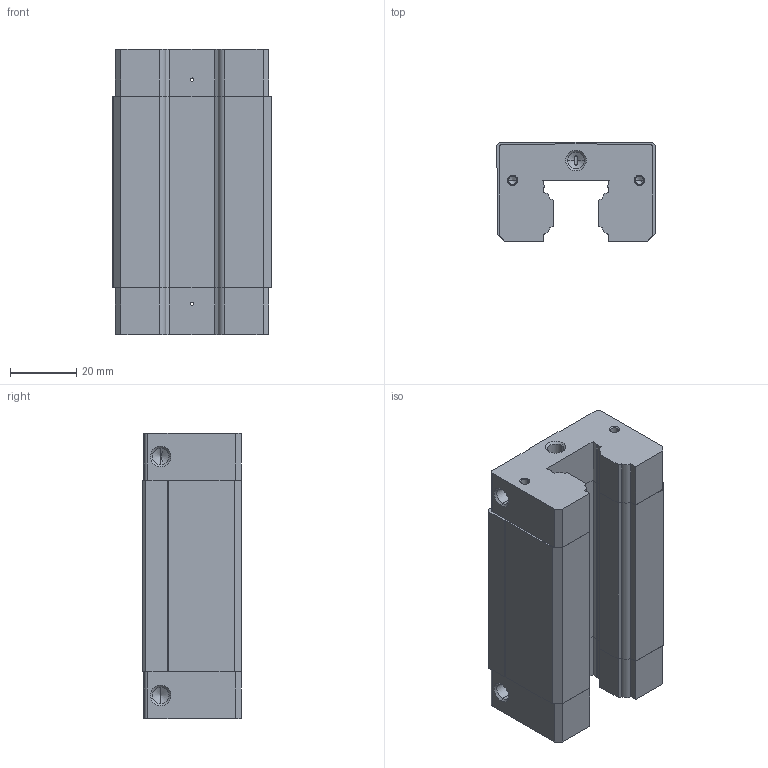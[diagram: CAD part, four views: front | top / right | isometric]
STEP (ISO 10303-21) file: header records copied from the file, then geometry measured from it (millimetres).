
FILE_DESCRIPTION (( 'STEP AP214' ), '1' );
FILE_NAME ('RUSIZE_1230112191517.step', '2006-12-30T16:02:27', ( 'SysAdmin' ), ( 'SolidWorks' ), 'SwSTEP 2.0', 'SolidWorks 2007', '' );
FILE_SCHEMA (( 'AUTOMOTIVE_DESIGN' ));
Length unit declared in the file: millimetre
Products named in the file (1): RUSIZE_1230112191517
Bounding box: 48 x 29.9 x 86.2 mm (x, y, z)
Volume: 92712 mm3; surface area: 24927.5 mm2
Topology: 3 solids, 3 shells, 195 faces, 508 edges, 308 vertices
Faces by surface type: plane 86, cone 56, cylinder 53
Entity records: 7852 total; most frequent: CARTESIAN_POINT 1092, DIRECTION 1000, ORIENTED_EDGE 968, EDGE_CURVE 484, VECTOR 344, LINE 344, AXIS2_PLACEMENT_3D 328, VERTEX_POINT 308
